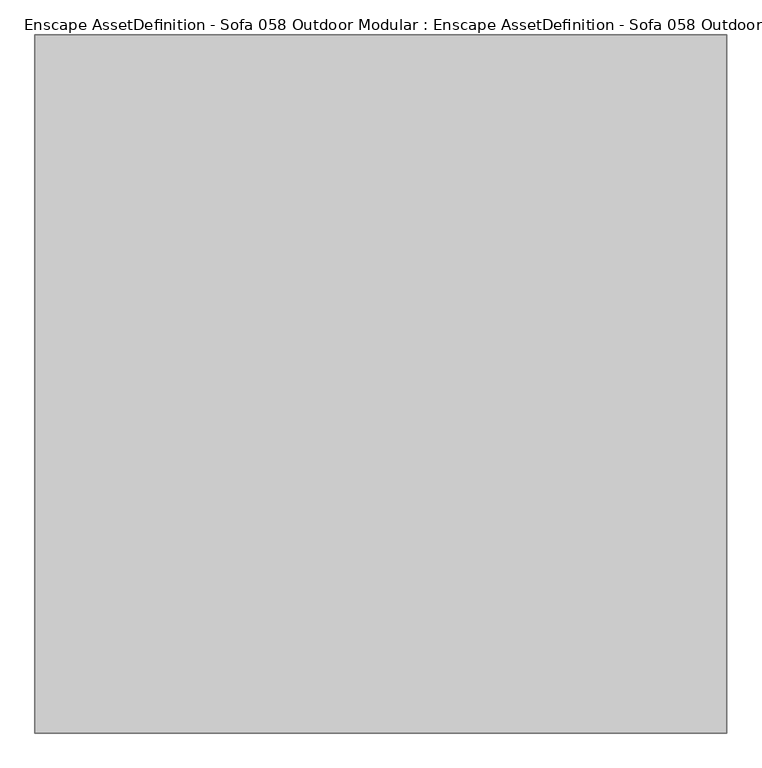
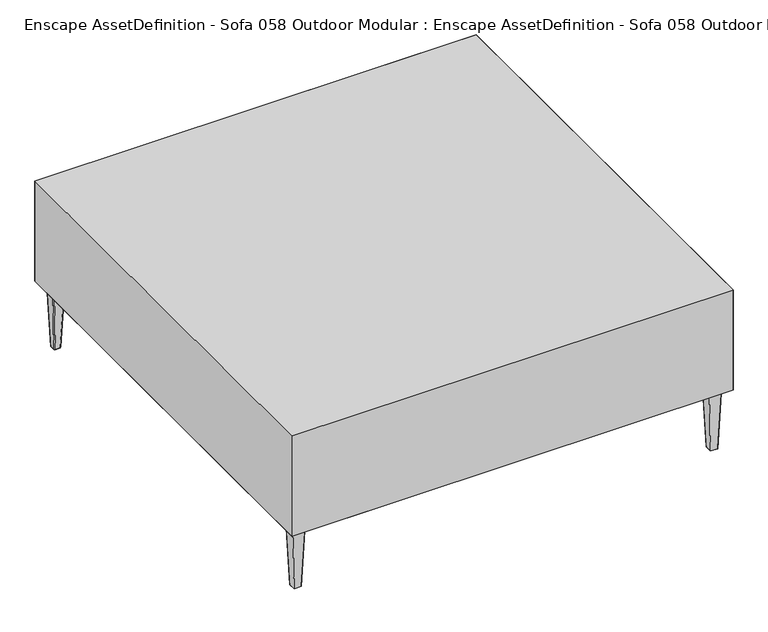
"""IFC4 building model written with IfcOpenShell, lengths in millimetres: geographic element geometry, Enscape AssetDefinition - Sofa 058 Outdoor Modular : Enscape AssetDefinition - Sofa 058 Outdoor Modular."""

from ifc_helpers import new_model, si_unit, origin, place, context, project, spatial, triangles, source, transform, mapped, element, save


def enscape_assetdefinition_sofa_058_outdoor_modular_enscape_2d4d97e4(model_context):
    return source(origin(), model_context, "Body", "Tessellation", [
        triangles([(587.3852222, -593.7986389, 170.2218228), (-586.2508438, -593.7986389, 170.2218228), (587.3852222, -593.7986389, 452.3932076), (-586.2508438, 589.7595323, 170.2218228), (-586.2508438, -593.7986389, 452.3932076), (587.3852222, 589.7595323, 170.2218228), (587.3852222, 589.7595323, 452.3932076), (-586.2508438, 589.7595323, 452.3932076), (541.6837967, -568.8007462, 0.0), (541.6837967, -549.9652679, 0.0), (567.2814348, -542.9938911, 180.1843143), (560.3666316, -568.8007462, 0.0), (560.3666316, -549.9652679, 0.0), (534.7689935, -575.7720503, 180.1843143), (567.2814348, -575.7720503, 180.1843143), (534.7689935, -542.9938911, 180.1843143), (541.6837967, 535.6007741, 0.0), (567.2814348, 528.62947, 180.1843143), (541.6837967, 554.4362523, 0.0), (534.7689935, 561.4075564, 180.1843143), (567.2814348, 561.4075564, 180.1843143), (560.3666316, 554.4362523, 0.0), (560.3666316, 535.6007741, 0.0), (534.7689935, 528.62947, 180.1843143), (-565.9524098, -568.8007462, 0.0), (-547.2696476, -549.9652679, 0.0), (-547.2696476, -568.8007462, 0.0), (-565.9524098, -549.9652679, 0.0), (-572.8672131, -542.9938911, 180.1843143), (-540.3548444, -575.7720503, 180.1843143), (-540.3548444, -542.9938911, 180.1843143), (-572.8672131, -575.7720503, 180.1843143), (-570.0850428, 560.6560761, 172.3256188), (-543.3812585, 560.6560761, 172.3256188), (-563.3930094, 553.9639701, 2.30466), (-563.3028259, 551.5654246, -4.4e-05), (-572.3934048, 558.3477141, 172.3256188), (-547.7650025, 551.6556081, 2.3046655), (-550.1635843, 551.5654246, -3.85e-05), (-550.0734372, 553.9639701, 2.3046655), (-565.7012987, 551.6556081, 2.30466), (-565.7012987, 538.3359632, 2.3046764), (-572.3934048, 531.6439299, 172.3256188), (-563.3929367, 536.0276012, 2.3046764), (-570.0850428, 529.3355679, 172.3256188), (-563.3028259, 538.4261467, -2.75e-05), (-547.7650025, 538.3359632, 2.3046818), (-550.1635843, 538.4261467, -2.2e-05), (-550.0734009, 536.0276012, 2.3046818), (-541.0728965, 531.6440025, 172.3256188), (-543.3812585, 529.3355679, 172.3256188), (-541.0729692, 558.3477141, 172.3256188)], [[38, 52, 50], [50, 47, 38], [50, 51, 49], [49, 47, 50], [49, 51, 45], [45, 44, 49], [48, 49, 44], [49, 48, 47], [39, 38, 47], [47, 48, 39], [44, 46, 48], [39, 48, 46], [45, 43, 42], [42, 44, 45], [42, 46, 44], [42, 43, 37], [46, 42, 41], [37, 41, 42], [46, 36, 39], [41, 36, 46], [40, 39, 36], [38, 39, 40], [38, 40, 34], [34, 52, 38], [37, 33, 35], [36, 35, 40], [34, 40, 35], [35, 41, 37], [35, 36, 41], [35, 33, 34], [28, 32, 29], [32, 31, 29], [32, 30, 31], [27, 31, 30], [26, 28, 29], [27, 26, 31], [26, 29, 31], [28, 25, 32], [25, 27, 30], [25, 28, 26], [25, 30, 32], [25, 26, 27], [19, 24, 20], [24, 21, 20], [24, 18, 21], [23, 21, 18], [22, 19, 20], [23, 22, 21], [22, 20, 21], [19, 17, 24], [17, 23, 18], [17, 19, 22], [17, 18, 24], [17, 22, 23], [10, 14, 16], [14, 11, 16], [14, 15, 11], [12, 11, 15], [13, 10, 16], [12, 13, 11], [13, 16, 11], [10, 9, 14], [9, 12, 15], [9, 10, 13], [9, 15, 14], [9, 13, 12], [4, 5, 8], [5, 7, 8], [5, 3, 7], [1, 7, 3], [6, 4, 8], [1, 6, 7], [6, 8, 7], [4, 2, 5], [2, 1, 3], [2, 4, 6], [2, 3, 5], [2, 6, 1]], closed=False),
    ])


if __name__ == "__main__":
    model = new_model("IFC4")
    model_context = context("Model", 3, world=origin())
    ifc_project = project(units=[si_unit("LENGTHUNIT", "METRE", prefix="MILLI")], contexts=[model_context])
    site = spatial("IfcSite", under=ifc_project)
    building = spatial("IfcBuilding", under=site)
    placement = place(None, origin())
    enscape_assetdefinition_sofa_058_outdoor_modular_enscape_shape = enscape_assetdefinition_sofa_058_outdoor_modular_enscape_2d4d97e4(model_context)
    element("IfcGeographicElement", 1, ObjectType="Enscape AssetDefinition - Sofa 058 Outdoor Modular : Enscape AssetDefinition - Sofa 058 Outdoor Modular", at=placement, inside=building, context=model_context, shape_type="MappedRepresentation", body=[
        mapped(enscape_assetdefinition_sofa_058_outdoor_modular_enscape_shape, transform((0.0, 0.0, 0.0), x_axis=(1.0, 0.0, 0.0), y_axis=(0.0, 1.0, 0.0), z_axis=(0.0, 0.0, 1.0))),
    ])
    save(model, "model.ifc")
